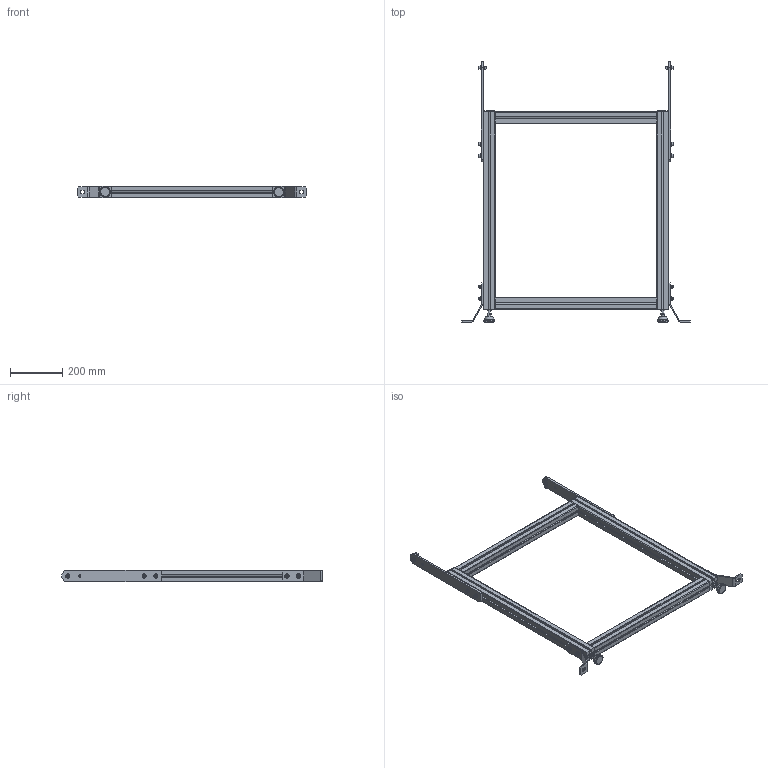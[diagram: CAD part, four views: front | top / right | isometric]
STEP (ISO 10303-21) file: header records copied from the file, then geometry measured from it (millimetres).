
FILE_DESCRIPTION (( 'STEP AP214' ), '1' );
FILE_NAME ('983-008-700.STEP', '2020-11-23T08:33:36', ( '' ), ( '' ), 'SwSTEP 2.0', 'SolidWorks 2020', '' );
FILE_SCHEMA (( 'AUTOMOTIVE_DESIGN' ));
Length unit declared in the file: millimetre
Products named in the file (15): 983-007; 982-017; RONDELLE_910-111; 905-021; 983-008-700; 935-016; 910-002_910-235; CHC THE_910-052H; 935-055; 935-055SV; 905-020; CHASSIS JAMBAGE TB52 700_D‚faut[Brut d''usinage]; 910-100; EMBOUT_915-010; CHC M8X20 + RP8
Assembly tree (22 placements, depth 4):
  983-008-700
    CHASSIS JAMBAGE TB52 700_D‚faut[Brut d''usinage]
    935-055  x2
      935-055SV
      910-100
      910-002_910-235
    EMBOUT_915-010  x2
    983-007  x2
      CHC M8X20 + RP8
        CHC THE_910-052H
        RONDELLE_910-111
      905-020
      905-021
      982-017
    935-016  x2
Bounding box: 876 x 996.5 x 45 mm (x, y, z)
Volume: 3945375.9 mm3; surface area: 1142509.2 mm2
Topology: 36 solids, 36 shells, 784 faces, 1912 edges, 1216 vertices
Faces by surface type: plane 530, cylinder 160, cone 72, torus 12, sphere 8, bspline 2
Full cylindrical faces by diameter (mm): 6 x6, 6.8 x10, 7.3 x4, 7.98 x6, 8 x14, 8.4 x6, 8.5 x8, 9 x4, 13 x6, 16 x6, 17 x4, 34 x2, 40 x2
Entity records: 11805 total; most frequent: CARTESIAN_POINT 2065, DIRECTION 1858, ORIENTED_EDGE 1828, EDGE_CURVE 914, LINE 732, VECTOR 732, VERTEX_POINT 618, AXIS2_PLACEMENT_3D 563
